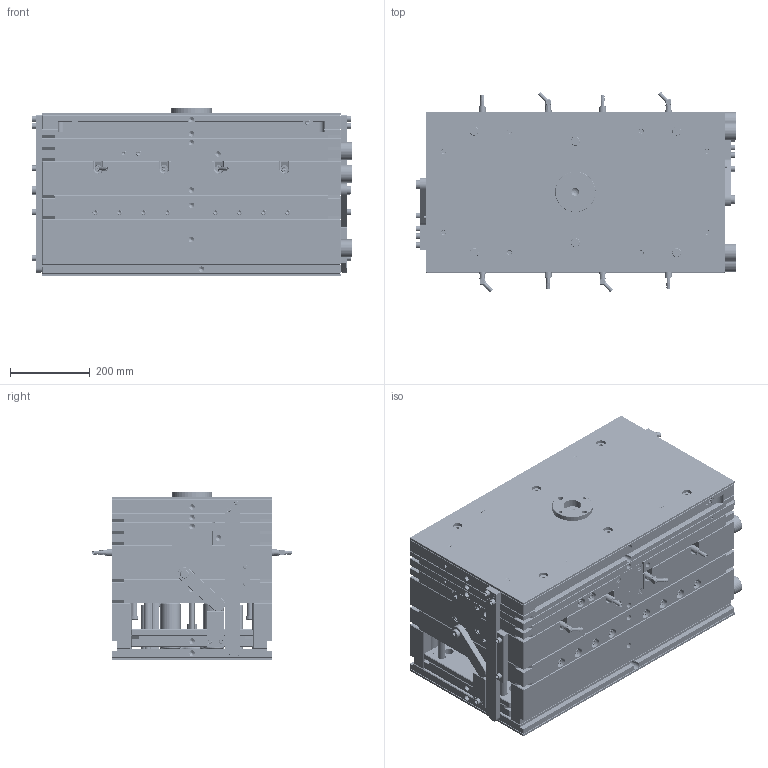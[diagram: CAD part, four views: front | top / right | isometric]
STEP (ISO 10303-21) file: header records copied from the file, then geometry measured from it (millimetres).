
FILE_DESCRIPTION(/* description */ (''),/* implementation_level */ '2;1');
FILE_NAME(/* name */ '61747-base_asm.stp',/* time_stamp */ '2009-04-16T09:26:28-05:00',/* author */ (''),/* organization */ (''),/* preprocessor_version */ 'ST-DEVELOPER v11',/* originating_system */ 'UGS - NX 5.0',/* authorisation */ '');
FILE_SCHEMA (('AUTOMOTIVE_DESIGN { 1 0 10303 214 1 1 1 1 }'));
Products named in the file (1): u033673776lw
Bounding box: 803.27 x 502.49 x 422.36 mm (x, y, z)
Volume: 105441621.2 mm3; surface area: 12363543.2 mm2
Topology: 630 solids, 630 shells, 16217 faces, 36608 edges, 23091 vertices
Faces by surface type: plane 8639, cylinder 4039, cone 2296, bspline 614, torus 456, sphere 119, extrusion 46, revolution 8
Full cylindrical faces by diameter (mm): 2.705 x16, 3.048 x1, 3.18 x8, 3.454 x33, 3.797 x34, 4.166 x32, 4.318 x16, 4.762 x16, 4.763 x8, 4.768 x8, 4.826 x34, 4.915 x32, 5.105 x8, 5.144 x16, 5.182 x97, 5.41 x8, 5.613 x24, 6.325 x18, 6.35 x105, 6.528 x18, 6.629 x8, 6.792 x2, 6.858 x32, 7 x8, 7.112 x1, 7.142 x86, 7.144 x2, 7.518 x12, 7.925 x24, 7.938 x158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
Entity records: 524659 total; most frequent: CARTESIAN_POINT 175890, DIRECTION 70823, ORIENTED_EDGE 60854, EDGE_CURVE 30427, AXIS2_PLACEMENT_3D 26886, EDGE_LOOP 23965, VERTEX_POINT 21757, VECTOR 17043
